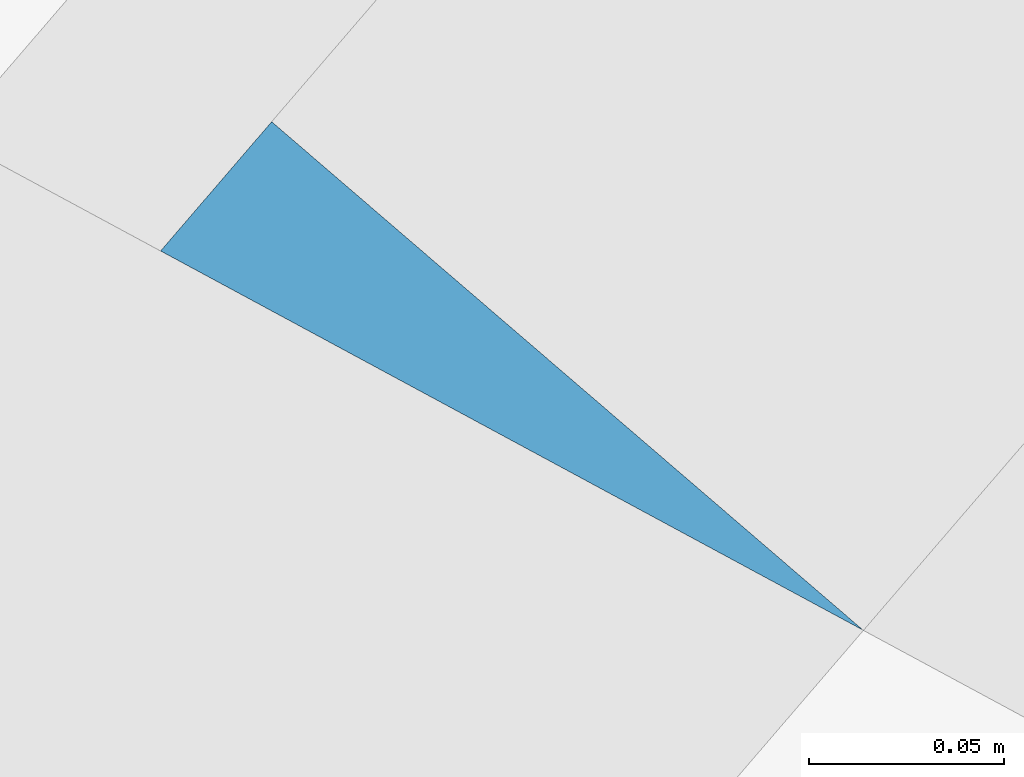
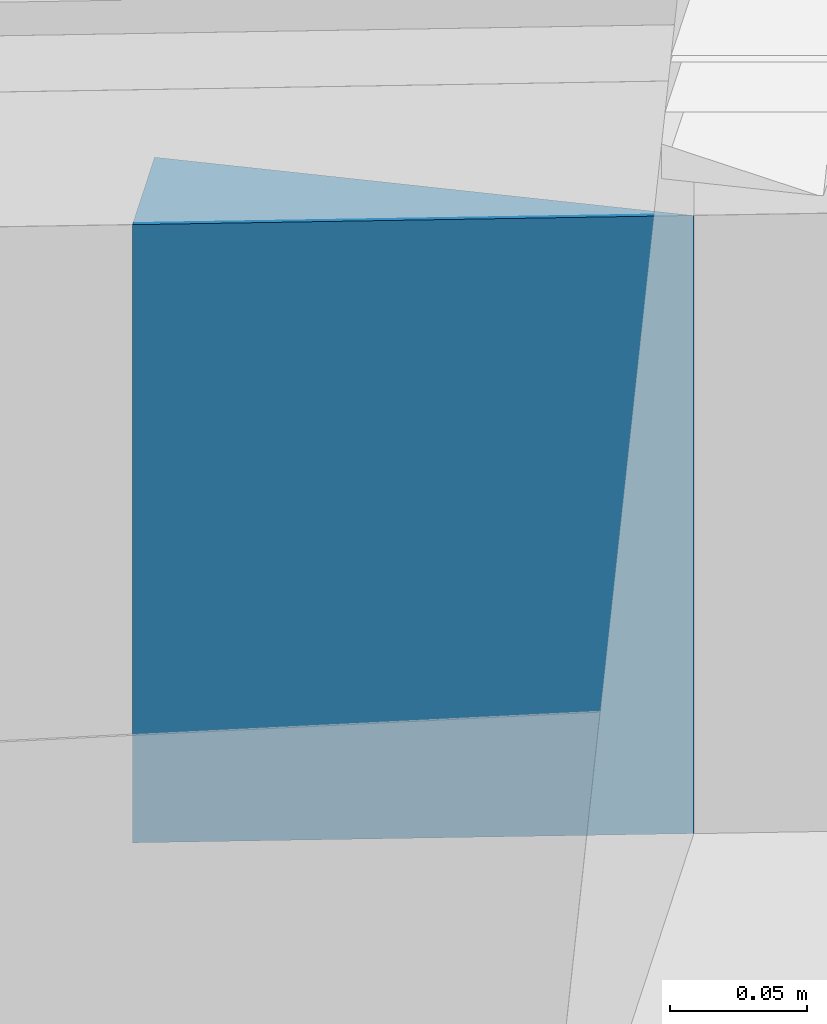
# One storey, part 5 of 48: 1 slab.
"""IFC2X3 building model written with IfcOpenShell, lengths in metres."""

from ifc_helpers import new_model, entity, si_unit, converted_unit, derived_unit, money_unit, direction, frame, origin_with_axes, place, context, subcontext, project, spatial, faceted_brep, material, type_object, element, save


model = new_model("IFC2X3")

# Units and contexts
model_context = context("Model", 3, precision=1e-05, world=origin_with_axes(), true_north=direction((0.0, 1.0)))
body_context = subcontext(model_context, "Body", "Model", "MODEL_VIEW")
ifc_project = project(units=[si_unit("LENGTHUNIT", "METRE"), si_unit("AREAUNIT", "SQUARE_METRE"), si_unit("VOLUMEUNIT", "CUBIC_METRE"), converted_unit("PLANEANGLEUNIT", "DEGREE", entity("IfcPlaneAngleMeasure", 0.0174532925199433), si_unit("PLANEANGLEUNIT", "RADIAN"), dimensions=[0, 0, 0, 0, 0, 0, 0]), money_unit("EUR"), converted_unit("TIMEUNIT", "Year", entity("IfcTimeMeasure", 31556926.0), si_unit("TIMEUNIT", "SECOND"), dimensions=[0, 0, 1, 0, 0, 0, 0]), si_unit("MASSUNIT", "GRAM", prefix="KILO"), si_unit("THERMODYNAMICTEMPERATUREUNIT", "DEGREE_CELSIUS"), si_unit("LUMINOUSINTENSITYUNIT", "LUMEN"), si_unit("ENERGYUNIT", "JOULE", prefix="MEGA"), derived_unit("THERMALCONDUCTANCEUNIT", [(si_unit("POWERUNIT", "WATT"), 1), (si_unit("LENGTHUNIT", "METRE"), -1), (si_unit("THERMODYNAMICTEMPERATUREUNIT", "KELVIN"), -1)]), derived_unit("SPECIFICHEATCAPACITYUNIT", [(si_unit("ENERGYUNIT", "JOULE"), 1), (si_unit("MASSUNIT", "GRAM", prefix="KILO"), -1), (si_unit("THERMODYNAMICTEMPERATUREUNIT", "KELVIN"), -1)]), derived_unit("MASSDENSITYUNIT", [(si_unit("MASSUNIT", "GRAM", prefix="KILO"), 1), (si_unit("VOLUMEUNIT", "CUBIC_METRE"), -1)])], contexts=[model_context])

# Site, building, storey
site_placement = place(None, frame((-3.949935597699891, 1.740105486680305, 0.0), z_axis=(0.0, 0.0, 1.0), x_axis=(0.8799804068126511, -0.475009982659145, 0.0)))
site = spatial("IfcSite", under=ifc_project, at=site_placement, Name="Gelände", CompositionType="ELEMENT")
building_placement = place(site_placement, origin_with_axes())
building = spatial("IfcBuilding", under=site, at=building_placement, Name="Gebäude", CompositionType="ELEMENT")
storey_placement = place(building_placement, frame((0.0, 0.0, 4.55), z_axis=(0.0, 0.0, 1.0), x_axis=(1.0, 0.0, 0.0)))
storey = spatial("IfcBuildingStorey", under=building, at=storey_placement, Name="Staffelgeschoss", CompositionType="ELEMENT", Elevation=4.55)

# Slab
ifc_material = material(Name="_SIWH - Beton, Stahlbeton")
slab_type = type_object("IfcSlabType", Name="_SIWH - Beton, Stahlbeton Polygon", PredefinedType="NOTDEFINED")
slab_placement = place(storey_placement, frame((27.81092993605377, 11.0378006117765, -0.3999999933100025), z_axis=(0.0, 0.0, 1.0), x_axis=(1.0, 0.0, 0.0)))
element("IfcSlab", 1, at=slab_placement, inside=storey, type_object=slab_type, material=ifc_material, Name="Wand-026", PredefinedType="NOTDEFINED", context=body_context, shape_type="Brep", body=[
    faceted_brep([(0.0, 0.0, 0.2749999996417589), (0.0, 0.0, 0.0), (0.2047146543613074, 0.0, 0.0), (0.2047146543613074, 0.0, 0.2749999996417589), (0.00466036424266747, 0.0213378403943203, 0.2749999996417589), (0.00466036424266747, 0.0213378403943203, 0.0), (0.009320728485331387, 0.04267568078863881, 0.0), (0.009320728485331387, 0.04267568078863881, 0.2749999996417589)], [[[0, 1, 2, 3]], [[4, 5, 1, 0]], [[2, 1, 5, 6]], [[3, 2, 6, 7]], [[4, 0, 3, 7]], [[7, 6, 5, 4]]]),
])

save(model, "model.ifc")
